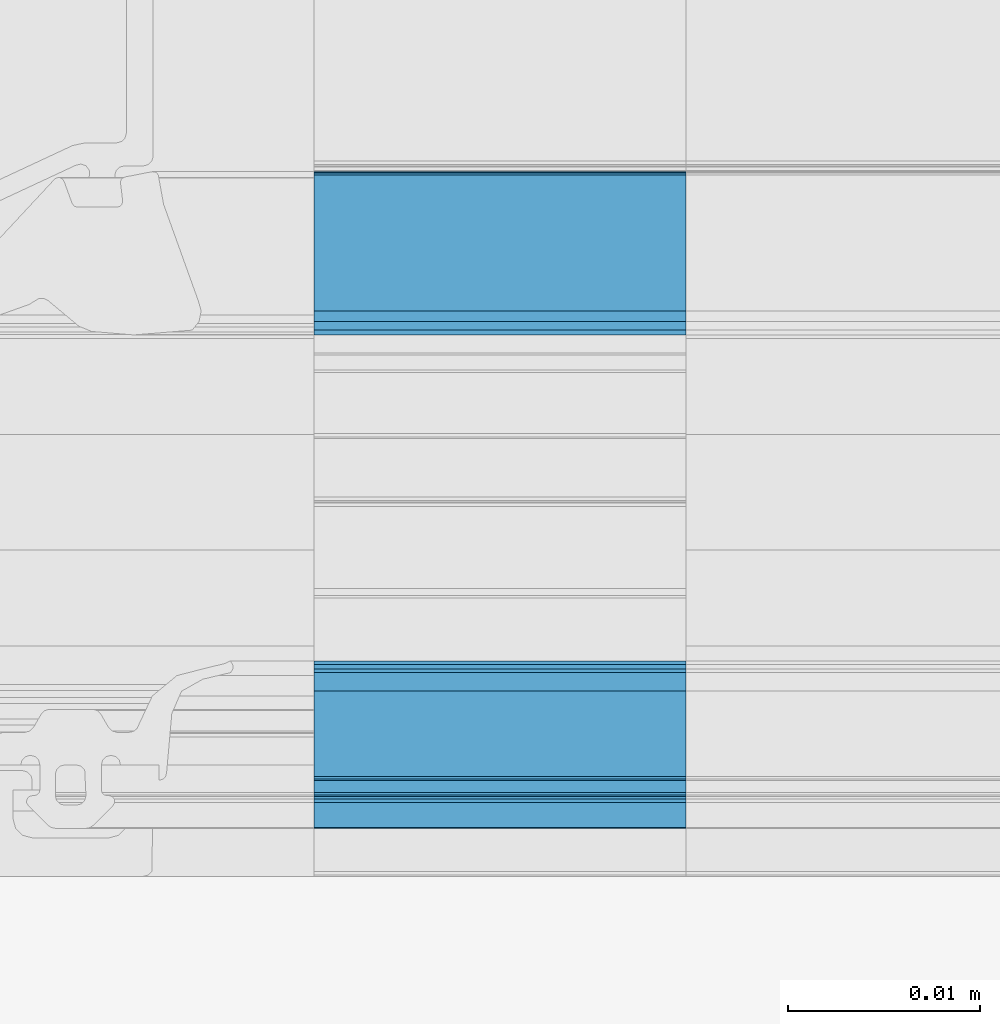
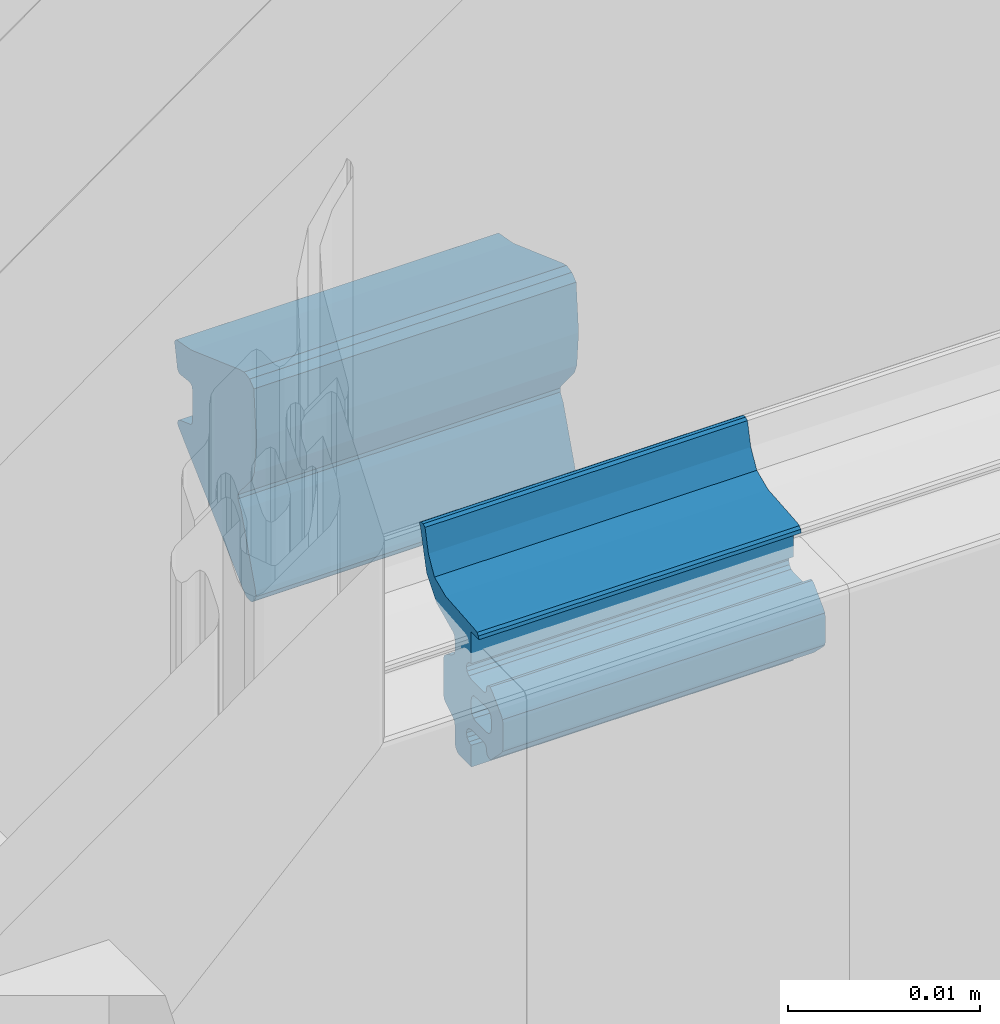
# One storey, part 38 of 69: 1 building element part, 2 elements without a shape of their own.
"""IFC2X3 building model written with IfcOpenShell, lengths in millimetres."""

from ifc_helpers import new_model, entity, si_unit, converted_unit, derived_unit, money_unit, direction, frame, origin_with_axes, place, context, subcontext, project, spatial, faceted_brep, material, type_object, element, aggregate, save


model = new_model("IFC2X3")

# Units and contexts
model_context = context("Model", 3, precision=0.01, world=origin_with_axes(), true_north=direction((0.0, 1.0)))
body_context = subcontext(model_context, "Body", "Model", "MODEL_VIEW")
ifc_project = project(units=[si_unit("LENGTHUNIT", "METRE", prefix="MILLI"), si_unit("AREAUNIT", "SQUARE_METRE"), si_unit("VOLUMEUNIT", "CUBIC_METRE"), converted_unit("PLANEANGLEUNIT", "DEGREE", entity("IfcPlaneAngleMeasure", 0.0174532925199), si_unit("PLANEANGLEUNIT", "RADIAN"), dimensions=[0, 0, 0, 0, 0, 0, 0]), si_unit("SOLIDANGLEUNIT", "STERADIAN"), money_unit("EUR"), converted_unit("TIMEUNIT", "Year", entity("IfcTimeMeasure", 31556926.0), si_unit("TIMEUNIT", "SECOND"), dimensions=[0, 0, 1, 0, 0, 0, 0]), si_unit("MASSUNIT", "GRAM", prefix="KILO"), si_unit("THERMODYNAMICTEMPERATUREUNIT", "DEGREE_CELSIUS"), si_unit("LUMINOUSINTENSITYUNIT", "LUMEN"), si_unit("ENERGYUNIT", "JOULE", prefix="MEGA"), derived_unit("THERMALCONDUCTANCEUNIT", [(si_unit("POWERUNIT", "WATT"), 1), (si_unit("LENGTHUNIT", "METRE"), -1), (si_unit("THERMODYNAMICTEMPERATUREUNIT", "KELVIN"), -1)]), derived_unit("SPECIFICHEATCAPACITYUNIT", [(si_unit("ENERGYUNIT", "JOULE"), 1), (si_unit("MASSUNIT", "GRAM", prefix="KILO"), -1), (si_unit("THERMODYNAMICTEMPERATUREUNIT", "KELVIN"), -1)]), derived_unit("MASSDENSITYUNIT", [(si_unit("MASSUNIT", "GRAM", prefix="KILO"), 1), (si_unit("VOLUMEUNIT", "CUBIC_METRE"), -1)])], contexts=[model_context])

# Site, building, storey
site_placement = place(None, origin_with_axes())
site = spatial("IfcSite", under=ifc_project, at=site_placement, Name="Puškini 31, Narva", CompositionType="ELEMENT")
building_placement = place(site_placement, origin_with_axes())
building = spatial("IfcBuilding", under=site, at=building_placement, Name="Narva Riigigümnaasium", CompositionType="ELEMENT")
storey_placement = place(building_placement, origin_with_axes())
storey = spatial("IfcBuildingStorey", under=building, at=storey_placement, Name="1.korrus 0.00", CompositionType="ELEMENT", Elevation=0.0)

# Curtain wall, member, building element part
curtain_wall_type = type_object("IfcCurtainWallType", Name="Curtain Wall Type", PredefinedType="NOTDEFINED")
curtain_wall_placement = place(storey_placement, frame((18229.9603698, 152620.000001, -0.397158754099), z_axis=(0.0, 0.0, 1.0), x_axis=(1.0, 0.0, 0.0)))
curtain_wall = element("IfcCurtainWall", 1, at=curtain_wall_placement, inside=storey, type_object=curtain_wall_type, Name="G-KLF-01-1")
member_type = type_object("IfcMemberType", Name="61 x 45", PredefinedType="MULLION")
member_placement = place(curtain_wall_placement, frame((-2086.20055555, 0.0, 0.0), z_axis=(-1.0, 0.0, 0.0), x_axis=(0.0, 0.0, 1.0)))
member = element("IfcMember", 2, at=member_placement, type_object=member_type, Name="G-SKLF-06-raam", ObjectType="MULLION")
aggregate(curtain_wall, [member])
ifc_material = material(Name="Membraan - Veekindel")
building_element_part_placement = place(member_placement, origin_with_axes())
building_element_part = element("IfcBuildingElementPart", 3, at=building_element_part_placement, material=ifc_material, Name="Membraan - Veekindel", context=body_context, shape_type="Brep", body=[
    faceted_brep([(61.0413385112, -34.3890442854, 0.0), (61.0413385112, -34.3890442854, 19.3925769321), (59.5800222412, -34.73794757, 19.3925769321), (59.5800222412, -34.73794757, 0.0), (61.1536677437, -34.1934467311, 0.0), (61.1536677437, -34.1934467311, 19.3925769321), (61.1423164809, -33.9681748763, 19.3925769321), (61.0108941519, -33.784859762, 19.3925769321), (60.7381535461, -33.9217644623, 19.3925769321), (59.8409257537, -34.1343131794, 19.3925769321), (58.2346494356, -34.5489145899, 19.3925769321), (56.9567944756, -35.6067920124, 19.3925769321), (56.2495873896, -37.1074172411, 19.3925769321), (56.1542959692, -37.3107917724, 19.3925769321), (55.9795989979, -37.4519392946, 19.3925769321), (55.7607444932, -37.5023809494, 19.3925769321), (55.1093263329, -37.5023809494, 19.3925769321), (54.8593263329, -37.4353936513, 19.3925769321), (54.676313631, -37.2523809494, 19.3925769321), (54.2721684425, -36.5523809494, 19.3925769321), (54.0891557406, -36.3693682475, 19.3925769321), (53.8391557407, -36.3023809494, 19.3925769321), (51.602145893, -36.3023809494, 19.3925769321), (51.352145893, -36.3693682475, 19.3925769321), (51.1691331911, -36.5523809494, 19.3925769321), (50.7649880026, -37.2523809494, 19.3925769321), (50.5819753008, -37.4353936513, 19.3925769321), (50.3319753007, -37.5023809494, 19.3925769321), (49.2206527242, -37.5023809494, 19.3925769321), (48.9706527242, -37.5693682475, 19.3925769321), (48.7876400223, -37.7523809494, 19.3925769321), (48.7206527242, -38.0023809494, 19.3925769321), (48.7206527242, -39.1999494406, 19.3925769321), (50.10004, -39.1999494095, 19.3925769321), (50.1670287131, -38.9499497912, 19.3925769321), (50.3500424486, -38.7669381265, 19.3925769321), (50.6000428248, -38.699952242, 19.3925769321), (50.8500424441, -38.7669409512, 19.3925769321), (51.0330541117, -38.9499546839, 19.3925769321), (51.10004, -39.1999550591, 19.3925769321), (51.10004, -40.4999366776, 19.3925769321), (51.0598476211, -40.6499366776, 19.3925769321), (50.95004, -40.7597442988, 19.3925769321), (50.80004, -40.7999366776, 19.3925769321), (50.7000457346, -40.7999366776, 19.3925769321), (50.5334025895, -40.8504763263, 19.3925769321), (50.4229059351, -40.9850671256, 19.3925769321), (50.4057850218, -41.1583618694, 19.3925769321), (50.4878083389, -41.3119729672, 19.3925769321), (51.5281601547, -42.3533311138, 19.3925769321), (51.6904310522, -42.4618421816, 19.3925769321), (51.8818844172, -42.4999486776, 19.3925769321), (53.517932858, -42.4999486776, 19.3925769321), (53.7093558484, -42.4618547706, 19.3925769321), (53.8716106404, -42.3533776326, 19.3925769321), (54.9122350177, -41.3120206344, 19.3925769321), (54.9942836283, -41.1584047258, 19.3925769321), (54.9771753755, -40.9850924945, 19.3925769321), (54.866675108, -40.850483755, 19.3925769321), (54.7000173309, -40.7999366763, 19.3925769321), (54.6000210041, -40.7999366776, 19.3925769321), (54.4500210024, -40.7597443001, 19.3925769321), (54.3402133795, -40.6499366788, 19.3925769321), (54.300021, -40.4999366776, 19.3925769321), (54.300021, -39.1999606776, 19.3925769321), (54.3670082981, -38.9499606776, 19.3925769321), (54.5500210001, -38.7669479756, 19.3925769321), (54.8000210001, -38.6999606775, 19.3925769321), (55.0500210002, -38.7669479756, 19.3925769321), (55.2330337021, -38.9499606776, 19.3925769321), (55.3000210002, -39.1999606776, 19.3925769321), (57.3000022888, -39.1999494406, 19.3925769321), (57.3000022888, -39.9999846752, 19.3925769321), (57.5000161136, -39.9463912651, 19.3925769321), (57.6464370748, -39.7999717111, 19.3925769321), (57.7000324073, -39.5999584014, 19.3925769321), (57.9693613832, -36.5265882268, 19.3925769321), (58.4755028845, -35.3628499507, 19.3925769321), (53.5000340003, -40.7999553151, 19.3925769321), (53.4330491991, -41.0499459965, 19.3925769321), (53.2500433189, -41.2329518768, 19.3925769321), (53.0000526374, -41.299936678, 19.3925769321), (52.4000083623, -41.299936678, 19.3925769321), (52.150017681, -41.2329518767, 19.3925769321), (51.9670118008, -41.0499459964, 19.3925769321), (51.9000269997, -40.799955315, 19.3925769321), (51.9000269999, -39.6999268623, 19.3925769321), (51.9670129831, -39.4499317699, 19.3925769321), (52.1500220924, -39.2669226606, 19.3925769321), (52.4000171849, -39.1999366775, 19.3925769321), (53.0000438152, -39.1999366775, 19.3925769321), (53.2500389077, -39.2669226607, 19.3925769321), (53.433048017, -39.44993177, 19.3925769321), (58.4755028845, -35.3628499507, 0.0), (57.9693613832, -36.5265882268, 0.0), (57.7000324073, -39.5999584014, 0.0), (57.6464370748, -39.7999717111, 0.0), (57.5000161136, -39.9463912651, 0.0), (57.3000022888, -39.9999846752, 0.0), (57.3000022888, -39.1999494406, 0.0), (55.3000210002, -39.1999606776, 0.0), (55.2330337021, -38.9499606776, 0.0), (55.0500210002, -38.7669479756, 0.0), (54.8000210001, -38.6999606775, 0.0), (54.5500210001, -38.7669479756, 0.0), (54.3670082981, -38.9499606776, 0.0), (54.300021, -39.1999606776, 0.0), (54.300021, -40.4999366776, 0.0), (54.3402133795, -40.6499366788, 0.0), (54.4500210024, -40.7597443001, 0.0), (54.6000210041, -40.7999366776, 0.0), (54.7000173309, -40.7999366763, 0.0), (54.866675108, -40.850483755, 0.0), (54.9771753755, -40.9850924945, 0.0), (54.9942836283, -41.1584047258, 0.0), (54.9122350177, -41.3120206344, 0.0), (53.8716106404, -42.3533776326, 0.0), (53.7093558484, -42.4618547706, 0.0), (53.517932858, -42.4999486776, 0.0), (51.8818844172, -42.4999486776, 0.0), (51.6904310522, -42.4618421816, 0.0), (51.5281601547, -42.3533311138, 0.0), (50.4878083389, -41.3119729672, 0.0), (50.4057850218, -41.1583618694, 0.0), (50.4229059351, -40.9850671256, 0.0), (50.5334025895, -40.8504763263, 0.0), (50.7000457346, -40.7999366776, 0.0), (50.80004, -40.7999366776, 0.0), (50.95004, -40.7597442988, 0.0), (51.0598476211, -40.6499366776, 0.0), (51.10004, -40.4999366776, 0.0), (51.10004, -39.1999550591, 0.0), (51.0330541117, -38.9499546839, 0.0), (50.8500424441, -38.7669409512, 0.0), (50.6000428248, -38.699952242, 0.0), (50.3500424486, -38.7669381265, 0.0), (50.1670287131, -38.9499497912, 0.0), (50.10004, -39.1999494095, 0.0), (48.7206527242, -39.1999494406, 0.0), (48.7206527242, -38.0023809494, 0.0), (48.7876400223, -37.7523809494, 0.0), (48.9706527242, -37.5693682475, 0.0), (49.2206527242, -37.5023809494, 0.0), (50.3319753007, -37.5023809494, 0.0), (50.5819753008, -37.4353936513, 0.0), (50.7649880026, -37.2523809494, 0.0), (51.1691331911, -36.5523809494, 0.0), (51.352145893, -36.3693682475, 0.0), (51.602145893, -36.3023809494, 0.0), (53.8391557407, -36.3023809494, 0.0), (54.0891557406, -36.3693682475, 0.0), (54.2721684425, -36.5523809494, 0.0), (54.676313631, -37.2523809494, 0.0), (54.8593263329, -37.4353936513, 0.0), (55.1093263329, -37.5023809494, 0.0), (55.7607444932, -37.5023809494, 0.0), (55.9795989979, -37.4519392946, 0.0), (56.1542959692, -37.3107917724, 0.0), (56.2495873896, -37.1074172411, 0.0), (56.9567944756, -35.6067920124, 0.0), (58.2346494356, -34.5489145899, 0.0), (59.8409257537, -34.1343131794, 0.0), (60.7381535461, -33.9217644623, 0.0), (61.0108941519, -33.784859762, 0.0), (61.1423164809, -33.9681748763, 0.0), (53.5000340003, -40.7999553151, 0.0), (53.433048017, -39.44993177, 0.0), (53.2500389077, -39.2669226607, 0.0), (53.0000438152, -39.1999366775, 0.0), (52.4000171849, -39.1999366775, 0.0), (52.1500220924, -39.2669226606, 0.0), (51.9670129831, -39.4499317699, 0.0), (51.9000269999, -39.6999268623, 0.0), (51.9000269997, -40.799955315, 0.0), (51.9670118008, -41.0499459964, 0.0), (52.150017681, -41.2329518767, 0.0), (52.4000083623, -41.299936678, 0.0), (53.0000526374, -41.299936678, 0.0), (53.2500433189, -41.2329518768, 0.0), (53.4330491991, -41.0499459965, 0.0)], [[[0, 1, 2, 3]], [[4, 5, 1, 0]], [[1, 5, 6, 7, 8, 9, 10, 11, 12, 13, 14, 15, 16, 17, 18, 19, 20, 21, 22, 23, 24, 25, 26, 27, 28, 29, 30, 31, 32, 33, 34, 35, 36, 37, 38, 39, 40, 41, 42, 43, 44, 45, 46, 47, 48, 49, 50, 51, 52, 53, 54, 55, 56, 57, 58, 59, 60, 61, 62, 63, 64, 65, 66, 67, 68, 69, 70, 71, 72, 73, 74, 75, 76, 77, 2], [78, 79, 80, 81, 82, 83, 84, 85, 86, 87, 88, 89, 90, 91, 92]], [[3, 2, 77, 93]], [[0, 3, 93, 94, 95, 96, 97, 98, 99, 100, 101, 102, 103, 104, 105, 106, 107, 108, 109, 110, 111, 112, 113, 114, 115, 116, 117, 118, 119, 120, 121, 122, 123, 124, 125, 126, 127, 128, 129, 130, 131, 132, 133, 134, 135, 136, 137, 138, 139, 140, 141, 142, 143, 144, 145, 146, 147, 148, 149, 150, 151, 152, 153, 154, 155, 156, 157, 158, 159, 160, 161, 162, 163, 164, 4], [165, 166, 167, 168, 169, 170, 171, 172, 173, 174, 175, 176, 177, 178, 179]], [[164, 6, 5, 4]], [[163, 7, 6, 164]], [[162, 8, 7, 163]], [[161, 9, 8, 162]], [[160, 10, 9, 161]], [[159, 11, 10, 160]], [[158, 12, 11, 159]], [[157, 13, 12, 158]], [[156, 14, 13, 157]], [[155, 15, 14, 156]], [[154, 16, 15, 155]], [[153, 17, 16, 154]], [[152, 18, 17, 153]], [[151, 19, 18, 152]], [[150, 20, 19, 151]], [[149, 21, 20, 150]], [[148, 22, 21, 149]], [[147, 23, 22, 148]], [[146, 24, 23, 147]], [[145, 25, 24, 146]], [[144, 26, 25, 145]], [[143, 27, 26, 144]], [[142, 28, 27, 143]], [[141, 29, 28, 142]], [[140, 30, 29, 141]], [[139, 31, 30, 140]], [[138, 32, 31, 139]], [[137, 33, 32, 138]], [[136, 34, 33, 137]], [[135, 35, 34, 136]], [[134, 36, 35, 135]], [[133, 37, 36, 134]], [[132, 38, 37, 133]], [[131, 39, 38, 132]], [[130, 40, 39, 131]], [[129, 41, 40, 130]], [[128, 42, 41, 129]], [[127, 43, 42, 128]], [[126, 44, 43, 127]], [[125, 45, 44, 126]], [[124, 46, 45, 125]], [[123, 47, 46, 124]], [[122, 48, 47, 123]], [[121, 49, 48, 122]], [[120, 50, 49, 121]], [[119, 51, 50, 120]], [[118, 52, 51, 119]], [[117, 53, 52, 118]], [[116, 54, 53, 117]], [[115, 55, 54, 116]], [[114, 56, 55, 115]], [[113, 57, 56, 114]], [[112, 58, 57, 113]], [[111, 59, 58, 112]], [[110, 60, 59, 111]], [[109, 61, 60, 110]], [[108, 62, 61, 109]], [[107, 63, 62, 108]], [[106, 64, 63, 107]], [[105, 65, 64, 106]], [[104, 66, 65, 105]], [[103, 67, 66, 104]], [[102, 68, 67, 103]], [[101, 69, 68, 102]], [[100, 70, 69, 101]], [[99, 71, 70, 100]], [[98, 72, 71, 99]], [[97, 73, 72, 98]], [[96, 74, 73, 97]], [[95, 75, 74, 96]], [[94, 76, 75, 95]], [[93, 77, 76, 94]], [[179, 79, 78, 165]], [[178, 80, 79, 179]], [[177, 81, 80, 178]], [[176, 82, 81, 177]], [[175, 83, 82, 176]], [[174, 84, 83, 175]], [[173, 85, 84, 174]], [[172, 86, 85, 173]], [[171, 87, 86, 172]], [[170, 88, 87, 171]], [[169, 89, 88, 170]], [[168, 90, 89, 169]], [[167, 91, 90, 168]], [[166, 92, 91, 167]], [[165, 78, 92, 166]]]),
    faceted_brep([(59.0307115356, -16.554149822, 0.0), (59.0307115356, -16.554149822, 19.3925769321), (55.9926715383, -16.8063498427, 19.3925769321), (55.9926715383, -16.8063498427, 0.0), (59.3884652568, -16.1092618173, 0.0), (59.3884652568, -16.1092618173, 19.3925769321), (59.5001582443, -15.5494067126, 19.3925769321), (59.3405112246, -15.0012955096, 19.3925769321), (57.5418652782, -10.0035930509, 19.3925769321), (57.2632233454, -8.46932121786, 19.3925769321), (57.1824204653, -8.36745448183, 19.3925769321), (57.0661058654, -8.3093438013, 19.3925769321), (56.9361285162, -8.30590490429, 19.3925769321), (55.5361285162, -8.57803733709, 19.3925769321), (55.4168250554, -8.6299735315, 19.3925769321), (55.3307332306, -8.7275382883, 19.3925769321), (55.2940485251, -8.85237785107, 19.3925769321), (55.4099827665, -9.81272116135, 19.3925769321), (55.3838261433, -9.97808311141, 19.3925769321), (55.2731258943, -10.1036784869, 19.3925769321), (55.1123574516, -10.1503930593, 19.3925769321), (53.0580290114, -10.1503930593, 19.3925769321), (52.8859560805, -10.0961386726, 19.3925769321), (52.7761212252, -9.95299910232, 19.3925769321), (52.3556584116, -8.79778701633, 19.3925769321), (52.2574645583, -8.66326410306, 19.3925769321), (52.1026310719, -8.60190419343, 19.3925769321), (51.938943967, -8.6326446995, 19.3925769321), (51.8169217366, -8.74599822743, 19.3925769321), (45.6142070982, -15.4144760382, 19.3925769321), (45.3418968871, -15.7688623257, 19.3925769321), (45.3195226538, -16.2152275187, 19.3925769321), (45.3889077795, -16.3899097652, 19.3925769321), (45.6241929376, -16.6482027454, 19.3925769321), (45.950966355, -16.7718696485, 19.3925769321), (46.298307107, -16.7340705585, 19.3925769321), (50.5536994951, -15.2121179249, 19.3925769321), (50.8437237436, -15.0307134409, 19.3925769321), (51.0558924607, -14.9074036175, 19.3925769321), (51.3011765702, -14.8998814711, 19.3925769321), (51.5205025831, -15.0099586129, 19.3925769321), (53.1225200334, -16.3483062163, 19.3925769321), (53.7899070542, -16.6230039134, 19.3925769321), (53.7899070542, -16.6230039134, 0.0), (53.1225200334, -16.3483062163, 0.0), (51.5205025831, -15.0099586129, 0.0), (51.3011765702, -14.8998814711, 0.0), (51.0558924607, -14.9074036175, 0.0), (50.8437237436, -15.0307134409, 0.0), (50.5536994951, -15.2121179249, 0.0), (46.298307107, -16.7340705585, 0.0), (45.950966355, -16.7718696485, 0.0), (45.6241929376, -16.6482027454, 0.0), (45.3889077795, -16.3899097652, 0.0), (45.3195226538, -16.2152275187, 0.0), (45.3418968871, -15.7688623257, 0.0), (45.6142070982, -15.4144760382, 0.0), (51.8169217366, -8.74599822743, 0.0), (51.938943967, -8.6326446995, 0.0), (52.1026310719, -8.60190419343, 0.0), (52.2574645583, -8.66326410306, 0.0), (52.3556584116, -8.79778701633, 0.0), (52.7761212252, -9.95299910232, 0.0), (52.8859560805, -10.0961386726, 0.0), (53.0580290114, -10.1503930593, 0.0), (55.1123574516, -10.1503930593, 0.0), (55.2731258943, -10.1036784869, 0.0), (55.3838261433, -9.97808311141, 0.0), (55.4099827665, -9.81272116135, 0.0), (55.2940485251, -8.85237785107, 0.0), (55.3307332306, -8.7275382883, 0.0), (55.4168250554, -8.6299735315, 0.0), (55.5361285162, -8.57803733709, 0.0), (56.9361285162, -8.30590490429, 0.0), (57.0661058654, -8.3093438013, 0.0), (57.1824204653, -8.36745448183, 0.0), (57.2632233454, -8.46932121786, 0.0), (57.5418652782, -10.0035930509, 0.0), (59.3405112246, -15.0012955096, 0.0), (59.5001582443, -15.5494067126, 0.0)], [[[0, 1, 2, 3]], [[4, 5, 1, 0]], [[1, 5, 6, 7, 8, 9, 10, 11, 12, 13, 14, 15, 16, 17, 18, 19, 20, 21, 22, 23, 24, 25, 26, 27, 28, 29, 30, 31, 32, 33, 34, 35, 36, 37, 38, 39, 40, 41, 42, 2]], [[3, 2, 42, 43]], [[0, 3, 43, 44, 45, 46, 47, 48, 49, 50, 51, 52, 53, 54, 55, 56, 57, 58, 59, 60, 61, 62, 63, 64, 65, 66, 67, 68, 69, 70, 71, 72, 73, 74, 75, 76, 77, 78, 79, 4]], [[79, 6, 5, 4]], [[78, 7, 6, 79]], [[77, 8, 7, 78]], [[76, 9, 8, 77]], [[75, 10, 9, 76]], [[74, 11, 10, 75]], [[73, 12, 11, 74]], [[72, 13, 12, 73]], [[71, 14, 13, 72]], [[70, 15, 14, 71]], [[69, 16, 15, 70]], [[68, 17, 16, 69]], [[67, 18, 17, 68]], [[66, 19, 18, 67]], [[65, 20, 19, 66]], [[64, 21, 20, 65]], [[63, 22, 21, 64]], [[62, 23, 22, 63]], [[61, 24, 23, 62]], [[60, 25, 24, 61]], [[59, 26, 25, 60]], [[58, 27, 26, 59]], [[57, 28, 27, 58]], [[56, 29, 28, 57]], [[55, 30, 29, 56]], [[54, 31, 30, 55]], [[53, 32, 31, 54]], [[52, 33, 32, 53]], [[51, 34, 33, 52]], [[50, 35, 34, 51]], [[49, 36, 35, 50]], [[48, 37, 36, 49]], [[47, 38, 37, 48]], [[46, 39, 38, 47]], [[45, 40, 39, 46]], [[44, 41, 40, 45]], [[43, 42, 41, 44]]]),
])
aggregate(member, [building_element_part])

save(model, "model.ifc")
